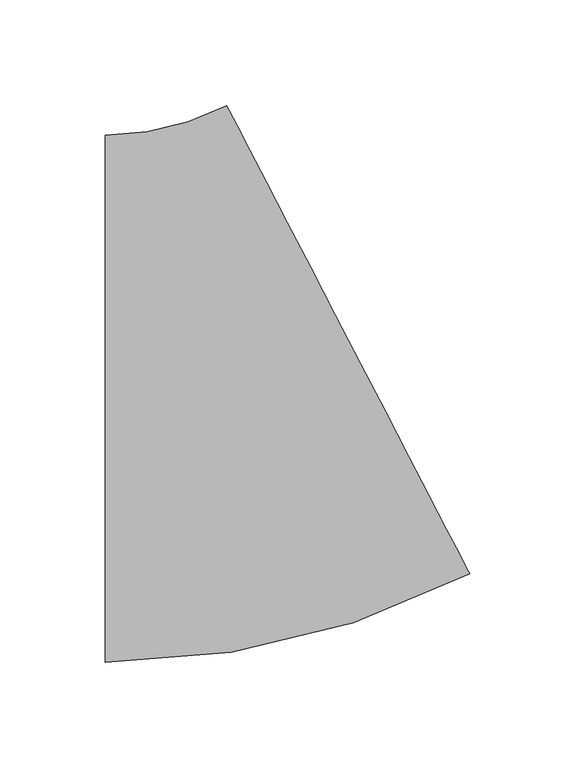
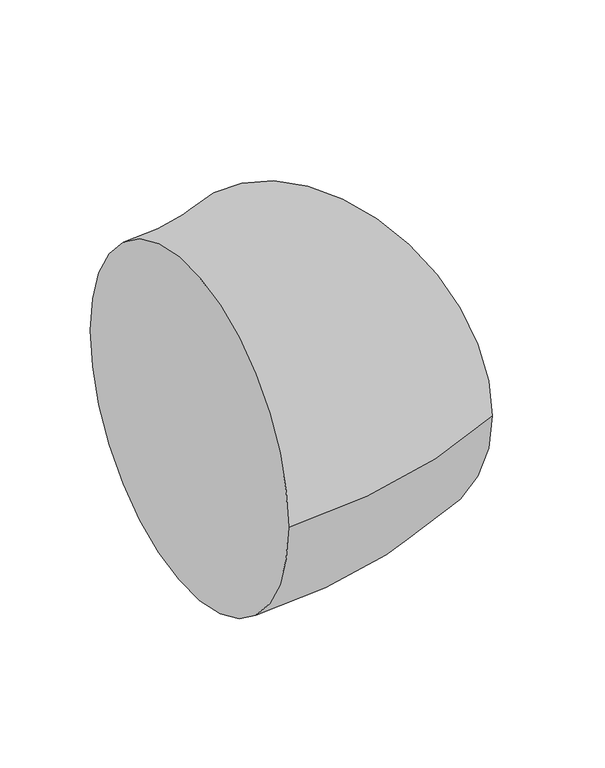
"""IFC4 building model written with IfcOpenShell, lengths in millimetres: duct fitting geometry, magicirc_elbow_full_radius_001 : magicirc_elbow_full_radius_001."""

from ifc_helpers import new_model, si_unit, point, frame, origin, place, context, project, spatial, circle_curve, ellipse_curve, trimmed, source, transform, mapped, element, save
from ifc_brep_helpers import plane_surface, revolved_surface, advanced_brep


def duct_fitting_44f7bd5e(model_context):
    return source(origin(), model_context, "Body", "AdvancedBrep", [
        advanced_brep(
        [(-60.9396795, -125.0, 0.0), (-60.9396795, 125.0, 0.0), (111.6258088, -82.9356578, 0.0), (-3.41785, 139.0214474, 0.0)],
        [
            (0, 1, circle_curve(frame((-60.9396795, 0.0, 0.0), z_axis=(-1.0, 0.0, 0.0), x_axis=(0.0, 1.0, 0.0)), 125.0)),
            (1, 0, circle_curve(frame((-60.9396795, 0.0, 0.0), z_axis=(-1.0, 0.0, 0.0), x_axis=(0.0, 1.0, 0.0)), 125.0)),
            (2, 3, circle_curve(frame((54.1039794, 28.0428948, 0.0), z_axis=(0.8878284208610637, 0.46017463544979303, 0.0), x_axis=(-0.46017463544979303, 0.8878284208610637, 0.0)), 125.0)),
            (3, 2, circle_curve(frame((54.1039794, 28.0428948, 0.0), z_axis=(0.8878284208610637, 0.46017463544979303, 0.0), x_axis=(-0.46017463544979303, 0.8878284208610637, 0.0)), 125.0)),
            (3, 1, circle_curve(frame((-60.9396795, 250.0, 0.0), z_axis=(0.0, 0.0, -1.0), x_axis=(0.0, -1.0, 0.0)), 125.0)),
            (0, 2, circle_curve(frame((-60.9396795, 250.0, 0.0), z_axis=(0.0, 0.0, 1.0), x_axis=(0.0, -1.0, 0.0)), 375.0)),
        ],
        [
            plane_surface(frame((-60.9396795, 0.0, 0.0), z_axis=(-1.0, 0.0, 0.0), x_axis=(0.0, 0.0, 1.0))),
            plane_surface(frame((54.1039794, 28.0428948, 0.0), z_axis=(0.8878284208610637, 0.46017463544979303, 0.0), x_axis=(0.0, 0.0, 1.0))),
            revolved_surface(trimmed(ellipse_curve(frame((-60.9396795, 0.0, 0.0), z_axis=(-1.0, 0.0, 0.0), x_axis=(0.0, 1.0, 0.0)), 125.0, 125.0), [point((-60.9396795, -125.0, 0.0))], [point((-60.9396795, 125.0, 0.0))], True, "CARTESIAN"), (-60.9396795, 250.0, 0.0), (0.0, 0.0, 1.0)),
            revolved_surface(trimmed(ellipse_curve(frame((-60.9396795, 0.0, 0.0), z_axis=(-1.0, 0.0, 0.0), x_axis=(0.0, 1.0, 0.0)), 125.0, 125.0), [point((-60.9396795, 125.0, 0.0))], [point((-60.9396795, -125.0, 0.0))], True, "CARTESIAN"), (-60.9396795, 250.0, 0.0), (0.0, 0.0, 1.0)),
        ],
        [
            (0, [[1, 2]]),
            (1, [[3, 4]]),
            (2, [[5, -1, 6, -4]]),
            (3, [[-6, -2, -5, -3]]),
        ],
    ),
    ])


if __name__ == "__main__":
    model = new_model("IFC4")
    model_context = context("Model", 3, world=origin())
    ifc_project = project(units=[si_unit("LENGTHUNIT", "METRE", prefix="MILLI")], contexts=[model_context])
    site = spatial("IfcSite", under=ifc_project)
    building = spatial("IfcBuilding", under=site)
    placement = place(None, origin())
    duct_fitting_shape = duct_fitting_44f7bd5e(model_context)
    element("IfcDuctFitting", 1, ObjectType="magicirc_elbow_full_radius_001 : magicirc_elbow_full_radius_001", at=placement, inside=building, context=model_context, shape_type="MappedRepresentation", body=[
        mapped(duct_fitting_shape, transform((0.0, 0.0, 0.0), x_axis=(1.0, 0.0, 0.0), y_axis=(0.0, 1.0, 0.0), z_axis=(0.0, 0.0, 1.0))),
    ])
    save(model, "model.ifc")
